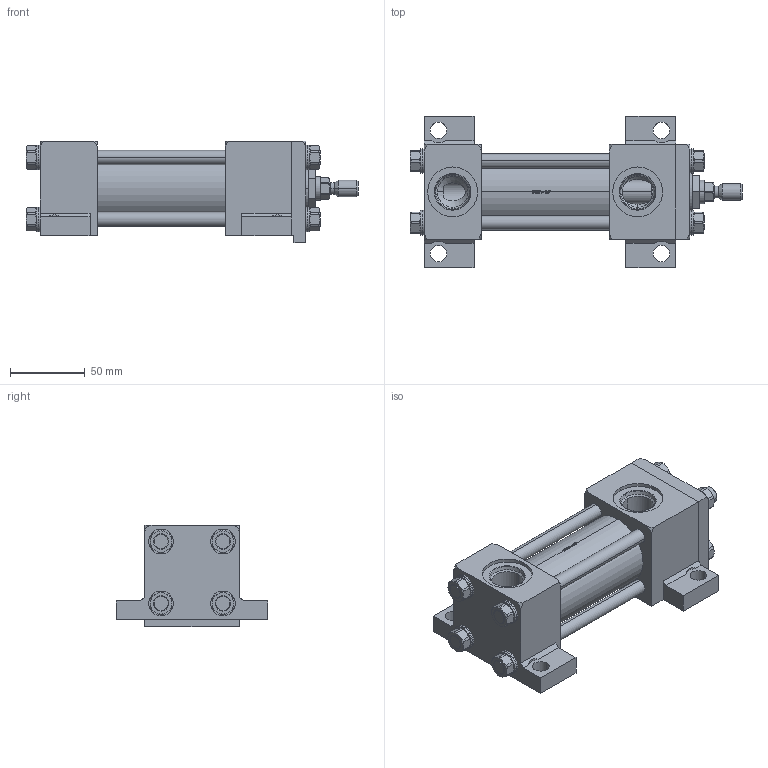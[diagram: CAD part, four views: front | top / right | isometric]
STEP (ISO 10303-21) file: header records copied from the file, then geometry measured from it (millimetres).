
FILE_DESCRIPTION (( 'STEP AP214' ), '1' );
FILE_NAME ('1.50CP2HHNAT114A2.000.step', '2026-03-26T21:16:40', ( '' ), ( '' ), 'SwSTEP 2.0', 'SolidWorks 2023', '' );
FILE_SCHEMA (( 'AUTOMOTIVE_DESIGN' ));
Length unit declared in the file: inch
Products named in the file (1): 1.50CP2HHNAT114A2.000
Bounding box: 222.25 x 101.6 x 68.26 mm (x, y, z)
Volume: 516227.5 mm3; surface area: 157551.8 mm2
Topology: 46 solids, 46 shells, 1224 faces, 3156 edges, 2031 vertices
Faces by surface type: plane 798, cylinder 222, cone 164, bspline 32, torus 8
Entity records: 55120 total; most frequent: CARTESIAN_POINT 10744, ORIENTED_EDGE 6312, DIRECTION 5166, EDGE_CURVE 3156, VERTEX_POINT 2031, AXIS2_PLACEMENT_3D 1751, LINE 1664, VECTOR 1664
